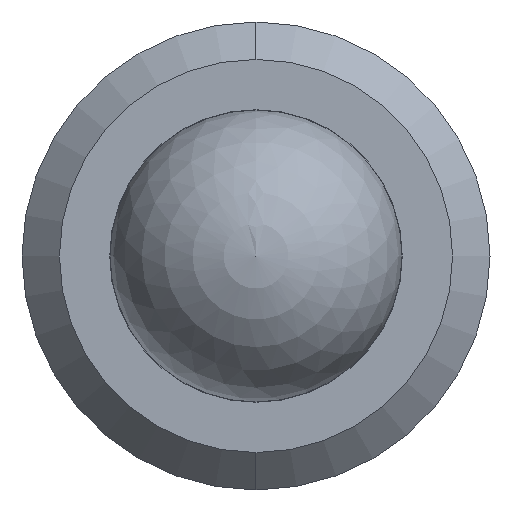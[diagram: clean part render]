
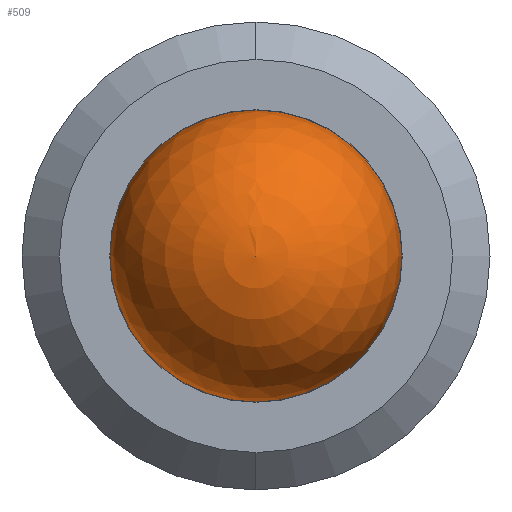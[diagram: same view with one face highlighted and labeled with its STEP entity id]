
A CAD part, left-side view. The second image highlights one B-rep face of the part: STEP entity #509.
In plain terms, the highlighted spherical face has radius 1.984 mm.
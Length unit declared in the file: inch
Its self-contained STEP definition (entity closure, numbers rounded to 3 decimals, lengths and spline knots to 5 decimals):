
#7 = VERTEX_POINT ( 'NONE', #77 ) ;
#40 = ORIENTED_EDGE ( 'NONE', *, *, #128, .F. ) ;
#59 = ORIENTED_EDGE ( 'NONE', *, *, #103, .T. ) ;
#77 = CARTESIAN_POINT ( 'NONE',  ( 0., 0.07813, 0. ) ) ;
#103 = EDGE_CURVE ( 'NONE', #7, #185, #149, .T. ) ;
#128 = EDGE_CURVE ( 'NONE', #7, #185, #575, .T. ) ;
#141 = DIRECTION ( 'NONE',  ( -1., 0., 0. ) ) ;
#144 = CARTESIAN_POINT ( 'NONE',  ( 0., 0., 0. ) ) ;
#149 = CIRCLE ( 'NONE', #587, 0.07813 ) ;
#156 = DIRECTION ( 'NONE',  ( 0., 0., 1. ) ) ;
#180 = AXIS2_PLACEMENT_3D ( 'NONE', #568, #427, #156 ) ;
#185 = VERTEX_POINT ( 'NONE', #367 ) ;
#272 = EDGE_LOOP ( 'NONE', ( #40, #59 ) ) ;
#295 = CARTESIAN_POINT ( 'NONE',  ( 0., 0., 0. ) ) ;
#324 = DIRECTION ( 'NONE',  ( 0., 0., -1. ) ) ;
#335 = DIRECTION ( 'NONE',  ( 1., 0., 0. ) ) ;
#367 = CARTESIAN_POINT ( 'NONE',  ( 0., -0.07813, 0. ) ) ;
#427 = DIRECTION ( 'NONE',  ( -1., 0., 0. ) ) ;
#497 = FACE_OUTER_BOUND ( 'NONE', #272, .T. ) ;
#509 = ADVANCED_FACE ( 'NONE', ( #497 ), #627, .T. ) ;
#568 = CARTESIAN_POINT ( 'NONE',  ( 0., 0., 0. ) ) ;
#575 = CIRCLE ( 'NONE', #585, 0.07813 ) ;
#585 = AXIS2_PLACEMENT_3D ( 'NONE', #295, #335, #324 ) ;
#587 = AXIS2_PLACEMENT_3D ( 'NONE', #144, #141, #615 ) ;
#615 = DIRECTION ( 'NONE',  ( 0., 0., 1. ) ) ;
#627 = SPHERICAL_SURFACE ( 'NONE', #180, 0.07813 ) ;
